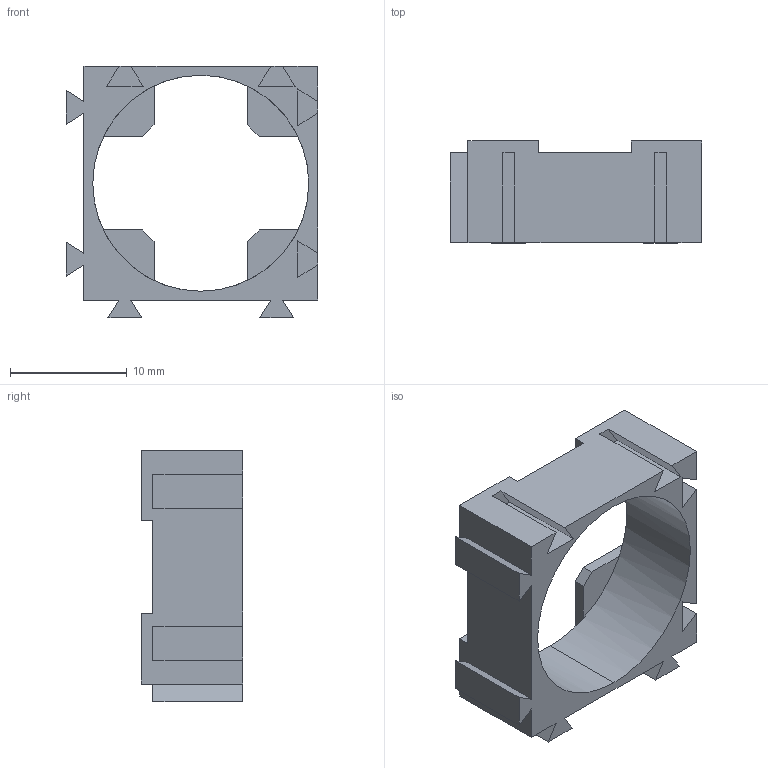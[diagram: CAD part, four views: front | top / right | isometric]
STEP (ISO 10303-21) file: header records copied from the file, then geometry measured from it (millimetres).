
FILE_DESCRIPTION (( 'STEP AP214' ), '1' );
FILE_NAME ('Socket_Baterai_Sel_20x12_Rev_1.STEP', '2019-08-06T02:25:12', ( '' ), ( '' ), 'SwSTEP 2.0', 'SolidWorks 2019', '' );
FILE_SCHEMA (( 'AUTOMOTIVE_DESIGN' ));
Length unit declared in the file: millimetre
Products named in the file (1): Socket_Baterai_Sel_20x12_Rev_1
Bounding box: 21.5 x 8.7 x 21.5 mm (x, y, z)
Volume: 1133.6 mm3; surface area: 1887.3 mm2
Topology: 1 solids, 1 shells, 63 faces, 178 edges, 116 vertices
Faces by surface type: plane 61, cylinder 2
Entity records: 2038 total; most frequent: CARTESIAN_POINT 358, ORIENTED_EDGE 356, DIRECTION 318, EDGE_CURVE 178, VECTOR 166, LINE 166, VERTEX_POINT 116, AXIS2_PLACEMENT_3D 76
